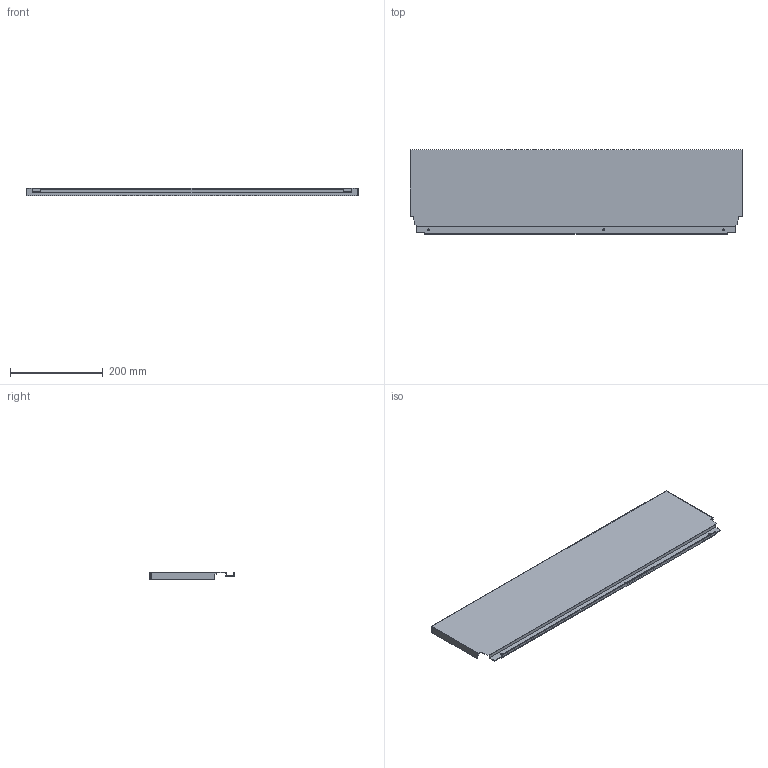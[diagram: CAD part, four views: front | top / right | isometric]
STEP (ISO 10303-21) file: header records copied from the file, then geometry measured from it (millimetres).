
FILE_DESCRIPTION (( 'STEP AP214' ), '1' );
FILE_NAME ('_DWD_XP Stahlrückwand_H182_KAB800_S17.step', '2010-07-08T12:57:47', ( 'grass' ), ( '' ), 'SwSTEP 2.0', 'SolidWorks 2010', '' );
FILE_SCHEMA (( 'AUTOMOTIVE_DESIGN' ));
Length unit declared in the file: millimetre
Products named in the file (1): _DWD_XP Stahlrückwand_H182_KAB800_S17
Bounding box: 715 x 182.49 x 16 mm (x, y, z)
Volume: 134324.3 mm3; surface area: 310885.2 mm2
Topology: 1 solids, 1 shells, 46 faces, 132 edges, 88 vertices
Faces by surface type: plane 40, cylinder 6
Entity records: 1534 total; most frequent: CARTESIAN_POINT 267, ORIENTED_EDGE 264, DIRECTION 238, EDGE_CURVE 132, VECTOR 120, LINE 120, VERTEX_POINT 88, AXIS2_PLACEMENT_3D 59
